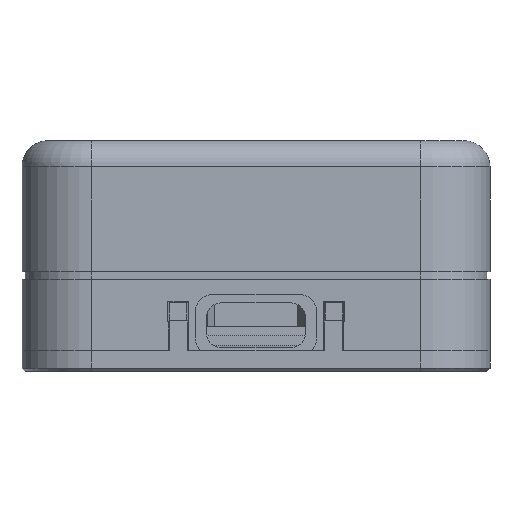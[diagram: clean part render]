
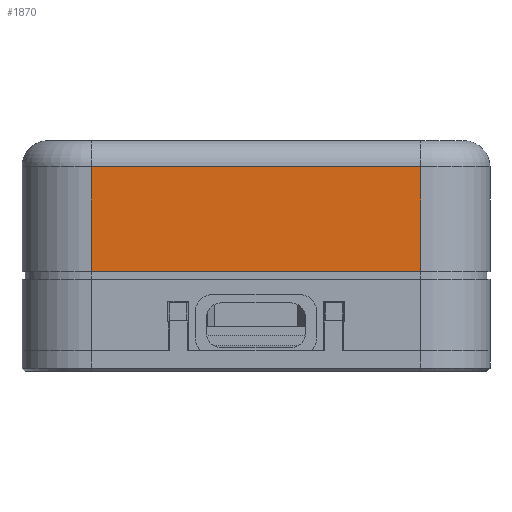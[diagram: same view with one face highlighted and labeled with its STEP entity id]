
A CAD part, front view. The second image highlights one B-rep face of the part: STEP entity #1870.
In plain terms, the highlighted planar face has unit normal (0, -1, 0).
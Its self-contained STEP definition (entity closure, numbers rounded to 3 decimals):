
#245 = CYLINDRICAL_SURFACE('',#246,3.);
#246 = AXIS2_PLACEMENT_3D('',#247,#248,#249);
#247 = CARTESIAN_POINT('',(19.,-21.,23.6));
#248 = DIRECTION('',(-1.,-0.,-0.));
#249 = DIRECTION('',(-0.,0.,1.));
#848 = VERTEX_POINT('',#849);
#849 = CARTESIAN_POINT('',(19.,-24.,23.6));
#884 = CYLINDRICAL_SURFACE('',#885,8.);
#885 = AXIS2_PLACEMENT_3D('',#886,#887,#888);
#886 = CARTESIAN_POINT('',(19.,-16.,2.4));
#887 = DIRECTION('',(0.,0.,1.));
#888 = DIRECTION('',(1.,0.,-0.));
#900 = EDGE_CURVE('',#848,#901,#903,.T.);
#901 = VERTEX_POINT('',#902);
#902 = CARTESIAN_POINT('',(-19.,-24.,23.6));
#903 = SURFACE_CURVE('',#904,(#908,#915),.PCURVE_S1.);
#904 = LINE('',#905,#906);
#905 = CARTESIAN_POINT('',(19.,-24.,23.6));
#906 = VECTOR('',#907,1.);
#907 = DIRECTION('',(-1.,-0.,-0.));
#908 = PCURVE('',#245,#909);
#909 = DEFINITIONAL_REPRESENTATION('',(#910),#914);
#910 = LINE('',#911,#912);
#911 = CARTESIAN_POINT('',(-1.571,0.));
#912 = VECTOR('',#913,1.);
#913 = DIRECTION('',(-0.,1.));
#914 = ( GEOMETRIC_REPRESENTATION_CONTEXT(2) 
PARAMETRIC_REPRESENTATION_CONTEXT() REPRESENTATION_CONTEXT('2D SPACE',''
  ) );
#915 = PCURVE('',#916,#921);
#916 = PLANE('',#917);
#917 = AXIS2_PLACEMENT_3D('',#918,#919,#920);
#918 = CARTESIAN_POINT('',(-27.,-24.,2.4));
#919 = DIRECTION('',(0.,1.,0.));
#920 = DIRECTION('',(0.,0.,1.));
#921 = DEFINITIONAL_REPRESENTATION('',(#922),#926);
#922 = LINE('',#923,#924);
#923 = CARTESIAN_POINT('',(21.2,46.));
#924 = VECTOR('',#925,1.);
#925 = DIRECTION('',(0.,-1.));
#926 = ( GEOMETRIC_REPRESENTATION_CONTEXT(2) 
PARAMETRIC_REPRESENTATION_CONTEXT() REPRESENTATION_CONTEXT('2D SPACE',''
  ) );
#1028 = CYLINDRICAL_SURFACE('',#1029,8.);
#1029 = AXIS2_PLACEMENT_3D('',#1030,#1031,#1032);
#1030 = CARTESIAN_POINT('',(-19.,-16.,2.4));
#1031 = DIRECTION('',(0.,0.,1.));
#1032 = DIRECTION('',(-1.,-0.,0.));
#1643 = PLANE('',#1644);
#1644 = AXIS2_PLACEMENT_3D('',#1645,#1646,#1647);
#1645 = CARTESIAN_POINT('',(-27.5,-24.5,11.5));
#1646 = DIRECTION('',(0.,0.,1.));
#1647 = DIRECTION('',(1.,0.,0.));
#1826 = VERTEX_POINT('',#1827);
#1827 = CARTESIAN_POINT('',(19.,-24.,11.5));
#1849 = EDGE_CURVE('',#1826,#848,#1850,.T.);
#1850 = SURFACE_CURVE('',#1851,(#1855,#1862),.PCURVE_S1.);
#1851 = LINE('',#1852,#1853);
#1852 = CARTESIAN_POINT('',(19.,-24.,2.4));
#1853 = VECTOR('',#1854,1.);
#1854 = DIRECTION('',(0.,0.,1.));
#1855 = PCURVE('',#884,#1856);
#1856 = DEFINITIONAL_REPRESENTATION('',(#1857),#1861);
#1857 = LINE('',#1858,#1859);
#1858 = CARTESIAN_POINT('',(-1.571,0.));
#1859 = VECTOR('',#1860,1.);
#1860 = DIRECTION('',(-0.,1.));
#1861 = ( GEOMETRIC_REPRESENTATION_CONTEXT(2) 
PARAMETRIC_REPRESENTATION_CONTEXT() REPRESENTATION_CONTEXT('2D SPACE',''
  ) );
#1862 = PCURVE('',#916,#1863);
#1863 = DEFINITIONAL_REPRESENTATION('',(#1864),#1868);
#1864 = LINE('',#1865,#1866);
#1865 = CARTESIAN_POINT('',(0.,46.));
#1866 = VECTOR('',#1867,1.);
#1867 = DIRECTION('',(1.,0.));
#1868 = ( GEOMETRIC_REPRESENTATION_CONTEXT(2) 
PARAMETRIC_REPRESENTATION_CONTEXT() REPRESENTATION_CONTEXT('2D SPACE',''
  ) );
#1870 = ADVANCED_FACE('',(#1871),#916,.F.);
#1871 = FACE_BOUND('',#1872,.F.);
#1872 = EDGE_LOOP('',(#1873,#1894,#1915,#1916));
#1873 = ORIENTED_EDGE('',*,*,#1874,.F.);
#1874 = EDGE_CURVE('',#1875,#1826,#1877,.T.);
#1875 = VERTEX_POINT('',#1876);
#1876 = CARTESIAN_POINT('',(-19.,-24.,11.5));
#1877 = SURFACE_CURVE('',#1878,(#1882,#1888),.PCURVE_S1.);
#1878 = LINE('',#1879,#1880);
#1879 = CARTESIAN_POINT('',(-27.25,-24.,11.5));
#1880 = VECTOR('',#1881,1.);
#1881 = DIRECTION('',(1.,0.,0.));
#1882 = PCURVE('',#916,#1883);
#1883 = DEFINITIONAL_REPRESENTATION('',(#1884),#1887);
#1884 = B_SPLINE_CURVE_WITH_KNOTS('',1,(#1885,#1886),.UNSPECIFIED.,.F.,
  .F.,(2,2),(8.25,46.25),.PIECEWISE_BEZIER_KNOTS.);
#1885 = CARTESIAN_POINT('',(9.1,8.));
#1886 = CARTESIAN_POINT('',(9.1,46.));
#1887 = ( GEOMETRIC_REPRESENTATION_CONTEXT(2) 
PARAMETRIC_REPRESENTATION_CONTEXT() REPRESENTATION_CONTEXT('2D SPACE',''
  ) );
#1888 = PCURVE('',#1643,#1889);
#1889 = DEFINITIONAL_REPRESENTATION('',(#1890),#1893);
#1890 = B_SPLINE_CURVE_WITH_KNOTS('',1,(#1891,#1892),.UNSPECIFIED.,.F.,
  .F.,(2,2),(8.25,46.25),.PIECEWISE_BEZIER_KNOTS.);
#1891 = CARTESIAN_POINT('',(8.5,0.5));
#1892 = CARTESIAN_POINT('',(46.5,0.5));
#1893 = ( GEOMETRIC_REPRESENTATION_CONTEXT(2) 
PARAMETRIC_REPRESENTATION_CONTEXT() REPRESENTATION_CONTEXT('2D SPACE',''
  ) );
#1894 = ORIENTED_EDGE('',*,*,#1895,.T.);
#1895 = EDGE_CURVE('',#1875,#901,#1896,.T.);
#1896 = SURFACE_CURVE('',#1897,(#1901,#1908),.PCURVE_S1.);
#1897 = LINE('',#1898,#1899);
#1898 = CARTESIAN_POINT('',(-19.,-24.,2.4));
#1899 = VECTOR('',#1900,1.);
#1900 = DIRECTION('',(0.,0.,1.));
#1901 = PCURVE('',#916,#1902);
#1902 = DEFINITIONAL_REPRESENTATION('',(#1903),#1907);
#1903 = LINE('',#1904,#1905);
#1904 = CARTESIAN_POINT('',(0.,8.));
#1905 = VECTOR('',#1906,1.);
#1906 = DIRECTION('',(1.,0.));
#1907 = ( GEOMETRIC_REPRESENTATION_CONTEXT(2) 
PARAMETRIC_REPRESENTATION_CONTEXT() REPRESENTATION_CONTEXT('2D SPACE',''
  ) );
#1908 = PCURVE('',#1028,#1909);
#1909 = DEFINITIONAL_REPRESENTATION('',(#1910),#1914);
#1910 = LINE('',#1911,#1912);
#1911 = CARTESIAN_POINT('',(1.571,0.));
#1912 = VECTOR('',#1913,1.);
#1913 = DIRECTION('',(0.,1.));
#1914 = ( GEOMETRIC_REPRESENTATION_CONTEXT(2) 
PARAMETRIC_REPRESENTATION_CONTEXT() REPRESENTATION_CONTEXT('2D SPACE',''
  ) );
#1915 = ORIENTED_EDGE('',*,*,#900,.F.);
#1916 = ORIENTED_EDGE('',*,*,#1849,.F.);
